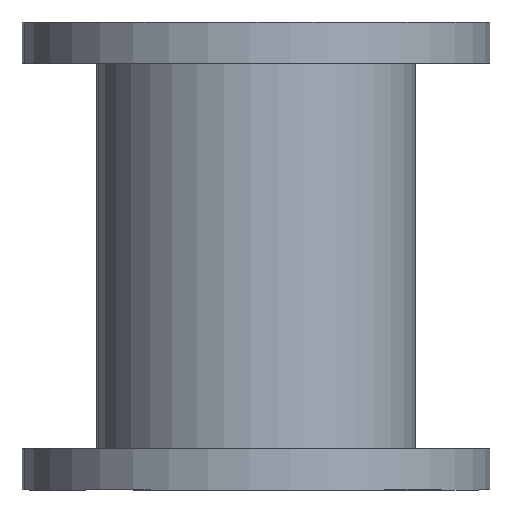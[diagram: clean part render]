
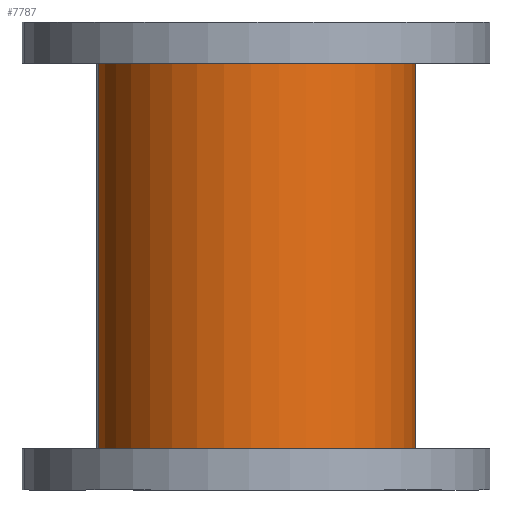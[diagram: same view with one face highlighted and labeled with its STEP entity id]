
A CAD part, front view. The second image highlights one B-rep face of the part: STEP entity #7787.
In plain terms, the highlighted cylindrical face has radius 85 mm (diameter 170 mm), a partial arc.
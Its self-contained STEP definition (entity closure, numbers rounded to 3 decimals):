
#269 = ORIENTED_EDGE ( 'NONE', *, *, #7303, .F. ) ;
#443 = DIRECTION ( 'NONE',  ( 0., 0., 1. ) ) ;
#755 = EDGE_CURVE ( 'NONE', #1864, #12240, #2817, .T. ) ;
#761 = ORIENTED_EDGE ( 'NONE', *, *, #755, .T. ) ;
#795 = EDGE_CURVE ( 'NONE', #1864, #10360, #13189, .T. ) ;
#1864 = VERTEX_POINT ( 'NONE', #8119 ) ;
#1906 = VERTEX_POINT ( 'NONE', #8694 ) ;
#2257 = DIRECTION ( 'NONE',  ( 1., 0., 0. ) ) ;
#2268 = ORIENTED_EDGE ( 'NONE', *, *, #795, .F. ) ;
#2427 = CARTESIAN_POINT ( 'NONE',  ( 0., 0., -103. ) ) ;
#2817 = CIRCLE ( 'NONE', #3775, 85. ) ;
#3177 = DIRECTION ( 'NONE',  ( 0., 0., 1. ) ) ;
#3214 = AXIS2_PLACEMENT_3D ( 'NONE', #12600, #9407, #2257 ) ;
#3775 = AXIS2_PLACEMENT_3D ( 'NONE', #2427, #443, #9276 ) ;
#3846 = ORIENTED_EDGE ( 'NONE', *, *, #10387, .T. ) ;
#4105 = DIRECTION ( 'NONE',  ( 0., 0., 1. ) ) ;
#5373 = CARTESIAN_POINT ( 'NONE',  ( -85., 0., -100. ) ) ;
#5637 = AXIS2_PLACEMENT_3D ( 'NONE', #9036, #3177, #8961 ) ;
#6101 = CIRCLE ( 'NONE', #3214, 85. ) ;
#6200 = VECTOR ( 'NONE', #11028, 1000. ) ;
#6722 = FACE_OUTER_BOUND ( 'NONE', #11910, .T. ) ;
#7303 = EDGE_CURVE ( 'NONE', #10360, #1906, #6101, .T. ) ;
#7787 = ADVANCED_FACE ( 'NONE', ( #6722 ), #13477, .T. ) ;
#7979 = CARTESIAN_POINT ( 'NONE',  ( 85., 0., -103. ) ) ;
#8119 = CARTESIAN_POINT ( 'NONE',  ( -85., 0., -103. ) ) ;
#8694 = CARTESIAN_POINT ( 'NONE',  ( 85., 0., 103. ) ) ;
#8961 = DIRECTION ( 'NONE',  ( 1., 0., 0. ) ) ;
#9036 = CARTESIAN_POINT ( 'NONE',  ( 0., 0., -100. ) ) ;
#9276 = DIRECTION ( 'NONE',  ( 1., 0., 0. ) ) ;
#9407 = DIRECTION ( 'NONE',  ( 0., 0., 1. ) ) ;
#9748 = CARTESIAN_POINT ( 'NONE',  ( 85., 0., -100. ) ) ;
#10360 = VERTEX_POINT ( 'NONE', #14433 ) ;
#10387 = EDGE_CURVE ( 'NONE', #12240, #1906, #12095, .T. ) ;
#11028 = DIRECTION ( 'NONE',  ( 0., 0., 1. ) ) ;
#11910 = EDGE_LOOP ( 'NONE', ( #2268, #761, #3846, #269 ) ) ;
#12095 = LINE ( 'NONE', #9748, #12192 ) ;
#12192 = VECTOR ( 'NONE', #4105, 1000. ) ;
#12240 = VERTEX_POINT ( 'NONE', #7979 ) ;
#12600 = CARTESIAN_POINT ( 'NONE',  ( 0., 0., 103. ) ) ;
#13189 = LINE ( 'NONE', #5373, #6200 ) ;
#13477 = CYLINDRICAL_SURFACE ( 'NONE', #5637, 85. ) ;
#14433 = CARTESIAN_POINT ( 'NONE',  ( -85., 0., 103. ) ) ;
